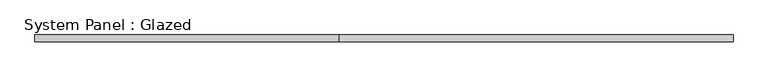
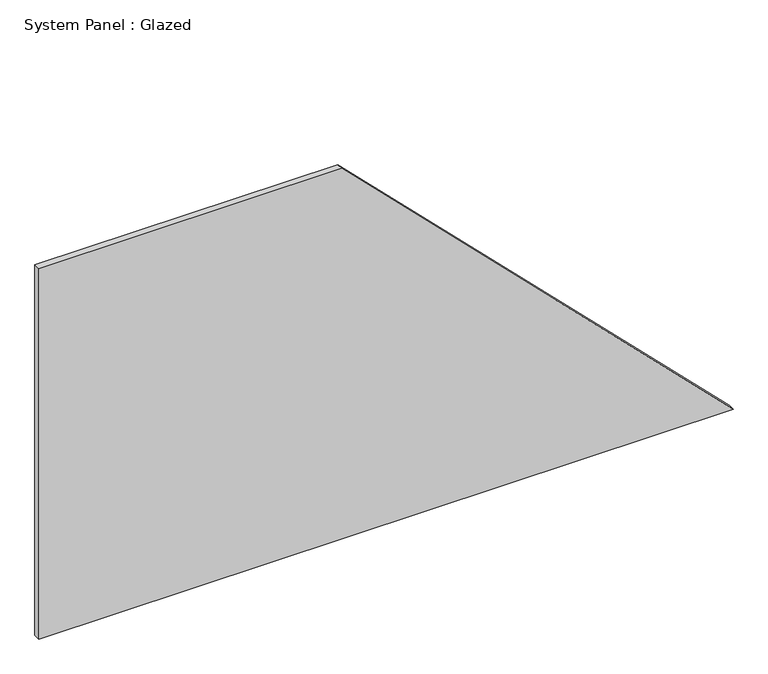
"""IFC4 building model written with IfcOpenShell, lengths in millimetres: plate geometry, System Panel : Glazed."""

from ifc_helpers import new_model, si_unit, frame, origin, place, context, project, spatial, polyline, outline, extrude, source, transform, mapped, element, save


def system_panel_glazed_0fad59ca(model_context):
    return source(origin(), model_context, "Body", "SweptSolid", [
        extrude(outline(polyline([(0.0, -1294.9487195), (0.0, 1294.9487195), (1460.5, -165.5512805), (1460.5, -1294.9487195), (0.0, -1294.9487195)])), frame((0.0, 19.05, 0.0), z_axis=(0.0, 1.0, 0.0), x_axis=(0.0, 0.0, 1.0)), (0.0, 0.0, 1.0), 25.4),
    ])


if __name__ == "__main__":
    model = new_model("IFC4")
    model_context = context("Model", 3, world=origin())
    ifc_project = project(units=[si_unit("LENGTHUNIT", "METRE", prefix="MILLI")], contexts=[model_context])
    site = spatial("IfcSite", under=ifc_project)
    building = spatial("IfcBuilding", under=site)
    placement = place(None, origin())
    system_panel_glazed_shape = system_panel_glazed_0fad59ca(model_context)
    element("IfcPlate", 1, ObjectType="System Panel : Glazed", at=placement, inside=building, context=model_context, shape_type="MappedRepresentation", body=[
        mapped(system_panel_glazed_shape, transform((0.0, 0.0, 0.0), x_axis=(1.0, 0.0, 0.0), y_axis=(0.0, 1.0, 0.0), z_axis=(0.0, 0.0, 1.0))),
    ])
    save(model, "model.ifc")
